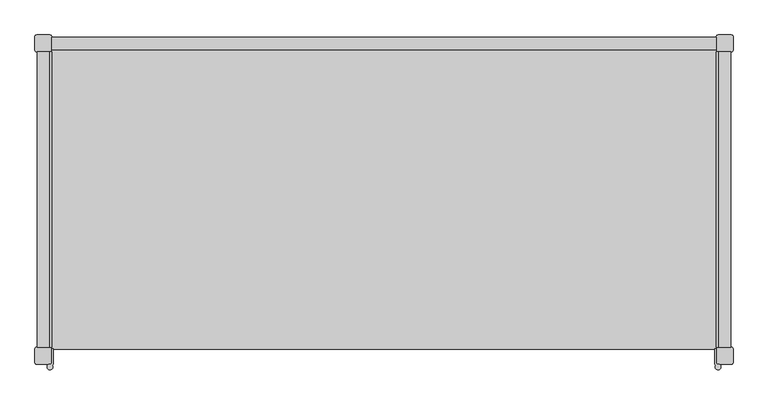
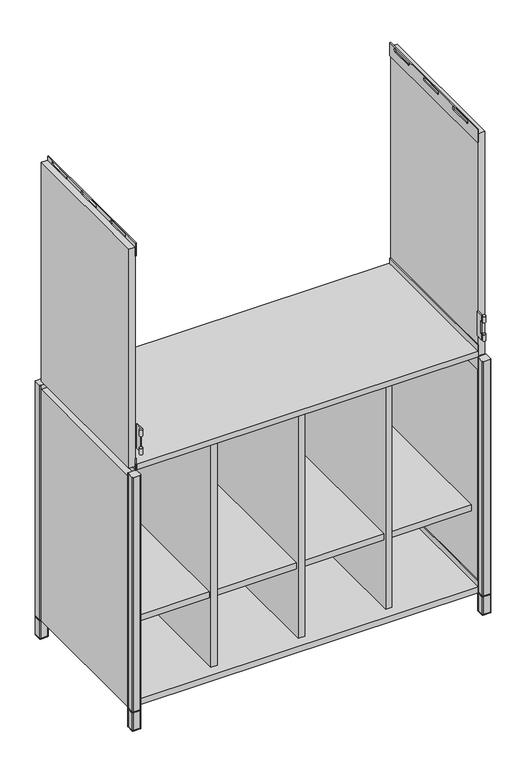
"""IFC4 building model written with IfcOpenShell, lengths in millimetres: furniture geometry, SmithSystem_AM_Storage_Education_Constellate_Stacking_DoubleMidCluster : Upper Cubbies + Lower Cubbies."""

import ifcopenshell
import ifcopenshell.guid

model = None  # the IFC model being written
_history = None  # IfcOwnerHistory: only IFC2X3 demands one
_inside = {}  # id of a spatial element -> (the spatial element, [elements in it])
_under = {}  # id of a project, library or spatial element -> (it, [spatial elements below it])
_declared = {}  # id of a project -> (the project, [libraries it declares])
_typed = {}  # id of a type object -> (the type object, [elements of that type])
_made_of = {}  # id of a material, layer set ... -> (it, [elements and type objects made of it])


def new_model(schema):
    """Start an empty IFC model of exactly this schema.

    Asked for "IFC4X3", IfcOpenShell would pick the latest addendum, in which some entities
    have other attributes; the version numbers below select the first issue.
    IFC2X3 requires an IfcOwnerHistory on every rooted entity: one is made here for all.
    """
    global model, _history
    if schema == "IFC4X3":
        model = ifcopenshell.file(schema_version=(4, 3, 0, 0))
    else:
        model = ifcopenshell.file(schema=schema)
    _inside.clear()
    _under.clear()
    _declared.clear()
    _typed.clear()
    _made_of.clear()
    _history = None
    if model.schema == "IFC2X3":
        org = make("IfcOrganization", Name="unknown")
        user = make(
            "IfcPersonAndOrganization",
            ThePerson=make("IfcPerson", FamilyName="unknown"),
            TheOrganization=org,
        )
        app = make(
            "IfcApplication",
            ApplicationDeveloper=org,
            Version="unknown",
            ApplicationFullName="unknown",
            ApplicationIdentifier="unknown",
        )
        _history = make(
            "IfcOwnerHistory",
            OwningUser=user,
            OwningApplication=app,
            ChangeAction="ADDED",
            CreationDate=0,
        )
    return model


def make(cls, **values):
    """One entity of the class cls with the attributes given. An attribute that is None is left unset."""
    return model.create_entity(
        cls, **{name: value for name, value in values.items() if value is not None}
    )


def rooted(cls, **values):
    """An entity with a GlobalId (a new one), such as an element, a storey or a relation."""
    return make(cls, GlobalId=ifcopenshell.guid.new(), OwnerHistory=_history, **values)


def si_unit(unit_type, name, prefix=None):
    """IfcSIUnit, for example si_unit("LENGTHUNIT", "METRE", prefix="MILLI")."""
    return make("IfcSIUnit", UnitType=unit_type, Prefix=prefix, Name=name)


def assignment(units):
    """IfcUnitAssignment: the units of a project."""
    return None if units is None else make("IfcUnitAssignment", Units=units)


def point(xyz):
    """IfcCartesianPoint."""
    return None if xyz is None else make("IfcCartesianPoint", Coordinates=xyz)


def direction(xyz):
    """IfcDirection."""
    return None if xyz is None else make("IfcDirection", DirectionRatios=xyz)


def frame(location, z_axis=None, x_axis=None):
    """IfcAxis2Placement3D, a coordinate frame: its origin and axes. An axis left out is left unset."""
    return make(
        "IfcAxis2Placement3D",
        Location=point(location),
        Axis=direction(z_axis),
        RefDirection=direction(x_axis),
    )


def frame_2d(location, x_axis=None):
    """IfcAxis2Placement2D, a coordinate frame in the plane: its origin and x axis."""
    return make(
        "IfcAxis2Placement2D", Location=point(location), RefDirection=direction(x_axis)
    )


def origin():
    """The frame at (0, 0, 0) with its axes left unset."""
    return frame((0.0, 0.0, 0.0))


def origin_with_axes():
    """The frame at (0, 0, 0) with the z axis (0, 0, 1) and the x axis (1, 0, 0) written out."""
    return frame((0.0, 0.0, 0.0), z_axis=(0.0, 0.0, 1.0), x_axis=(1.0, 0.0, 0.0))


def place(relative_to, where):
    """IfcLocalPlacement: puts the frame where relative to a parent placement (None: the world)."""
    return make(
        "IfcLocalPlacement", PlacementRelTo=relative_to, RelativePlacement=where
    )


def context(
    kind, dimensions, precision=None, world=None, true_north=None, identifier=None
):
    """IfcGeometricRepresentationContext, for example the 3D "Model" context."""
    return make(
        "IfcGeometricRepresentationContext",
        ContextIdentifier=identifier,
        ContextType=kind,
        CoordinateSpaceDimension=dimensions,
        Precision=precision,
        WorldCoordinateSystem=world,
        TrueNorth=true_north,
    )


def project(units=None, contexts=None):
    """IfcProject with its units and contexts."""
    return rooted(
        "IfcProject",
        Name="project",
        RepresentationContexts=contexts,
        UnitsInContext=assignment(units),
    )


def spatial(cls, under=None, at=None, **own):
    """A site, building, storey or space (cls), placed at a placement, below another one or the project."""
    s = rooted(cls, ObjectPlacement=at, **own)
    if under is not None:
        _under.setdefault(under.id(), (under, []))[1].append(s)
    return s


def polyline(points):
    """IfcPolyline through the points."""
    return make("IfcPolyline", Points=[point(p) for p in points])


def circle_curve(where, radius):
    """IfcCircle in the frame where."""
    return make("IfcCircle", Position=where, Radius=radius)


def trimmed(basis, trim1, trim2, sense, master):
    """IfcTrimmedCurve: the piece of a basis curve between two trims."""
    return make(
        "IfcTrimmedCurve",
        BasisCurve=basis,
        Trim1=trim1,
        Trim2=trim2,
        SenseAgreement=sense,
        MasterRepresentation=master,
    )


def segment(curve, same_sense, transition):
    """IfcCompositeCurveSegment."""
    return make(
        "IfcCompositeCurveSegment",
        Transition=transition,
        SameSense=same_sense,
        ParentCurve=curve,
    )


def composite_curve(segments, self_intersect=None):
    """IfcCompositeCurve: segments joined end to end."""
    return make("IfcCompositeCurve", Segments=segments, SelfIntersect=self_intersect)


def outline(outer, holes=None, kind="AREA"):
    """IfcArbitraryClosedProfileDef: a profile drawn as a closed curve; with holes, ...WithVoids."""
    if holes is None:
        return make("IfcArbitraryClosedProfileDef", ProfileType=kind, OuterCurve=outer)
    return make(
        "IfcArbitraryProfileDefWithVoids",
        ProfileType=kind,
        OuterCurve=outer,
        InnerCurves=holes,
    )


def extrude(swept, where, along, depth):
    """IfcExtrudedAreaSolid: the profile swept, set in the frame where, extruded along a direction by depth."""
    return make(
        "IfcExtrudedAreaSolid",
        SweptArea=swept,
        Position=where,
        ExtrudedDirection=direction(along),
        Depth=depth,
    )


def shape(context_of_items, identifier, shape_type, items):
    """IfcShapeRepresentation: the items that make up one representation, for example the "Body"."""
    return make(
        "IfcShapeRepresentation",
        ContextOfItems=context_of_items,
        RepresentationIdentifier=identifier,
        RepresentationType=shape_type,
        Items=items,
    )


def source(mapping_origin, context_of_items, identifier, shape_type, items):
    """IfcRepresentationMap: a shape defined once, which mapped items show again and again."""
    return make(
        "IfcRepresentationMap",
        MappingOrigin=mapping_origin,
        MappedRepresentation=shape(context_of_items, identifier, shape_type, items),
    )


def transform(
    local_origin,
    x_axis=None,
    y_axis=None,
    z_axis=None,
    scale=None,
    scale2=None,
    scale3=None,
    uniform=True,
):
    """IfcCartesianTransformationOperator3D, or its non-uniform kind. x_axis, y_axis, z_axis: its Axis1, 2, 3."""
    if uniform:
        return make(
            "IfcCartesianTransformationOperator3D",
            Axis1=direction(x_axis),
            Axis2=direction(y_axis),
            LocalOrigin=point(local_origin),
            Scale=scale,
            Axis3=direction(z_axis),
        )
    return make(
        "IfcCartesianTransformationOperator3DnonUniform",
        Axis1=direction(x_axis),
        Axis2=direction(y_axis),
        LocalOrigin=point(local_origin),
        Scale=scale,
        Axis3=direction(z_axis),
        Scale2=scale2,
        Scale3=scale3,
    )


def mapped(mapping_source, mapping_target):
    """IfcMappedItem: shows the shape of a source again, moved by a transform."""
    return make(
        "IfcMappedItem", MappingSource=mapping_source, MappingTarget=mapping_target
    )


def made_of(thing, what):
    """Note that an element or type object is made of a material, layer set ...; save() writes the relation."""
    if what is not None:
        _made_of.setdefault(what.id(), (what, []))[1].append(thing)
    return thing


def element(
    cls,
    number,
    at=None,
    inside=None,
    cuts=None,
    type_object=None,
    material=None,
    context=None,
    identifier="Body",
    shape_type=None,
    held_by="IfcProductDefinitionShape",
    body=None,
    shapes=None,
    **own,
):
    """One element of the class cls, such as IfcWall. Its Tag is "e" and its number.

    at: its placement. inside: the storey or other place that contains it. cuts: it is an
    opening in that element (IfcRelVoidsElement). A single representation is given by context,
    identifier, shape_type and body (its items); several are given by shapes. held_by: the class
    of the entity that holds the representations. save() writes the other relations.
    """
    e = rooted(cls, Tag="e%d" % number, ObjectPlacement=at, **own)
    if body is not None:
        shapes = [shape(context, identifier, shape_type, body)]
    if shapes is not None:
        e.Representation = make(held_by, Representations=shapes)
    if inside is not None:
        _inside.setdefault(inside.id(), (inside, []))[1].append(e)
    if cuts is not None:
        rooted(
            "IfcRelVoidsElement", RelatingBuildingElement=cuts, RelatedOpeningElement=e
        )
    if type_object is not None:
        _typed.setdefault(type_object.id(), (type_object, []))[1].append(e)
    return made_of(e, material)


def aggregate(whole, parts):
    """IfcRelAggregates: a whole, such as a stair, and the parts it consists of."""
    return rooted("IfcRelAggregates", RelatingObject=whole, RelatedObjects=parts)


def save(model, path):
    """Write the relations noted so far, then the file.

    IfcRelAggregates (storeys below a building ...), IfcRelContainedInSpatialStructure (elements
    in a storey), IfcRelDefinesByType, IfcRelAssociatesMaterial and IfcRelDeclares: one each for
    every whole, place, type object, material and project.
    """
    for whole, parts in _under.values():
        aggregate(whole, parts)
    for where, things in _inside.values():
        rooted(
            "IfcRelContainedInSpatialStructure",
            RelatedElements=things,
            RelatingStructure=where,
        )
    for kind, things in _typed.values():
        rooted("IfcRelDefinesByType", RelatedObjects=things, RelatingType=kind)
    for what, things in _made_of.values():
        rooted("IfcRelAssociatesMaterial", RelatedObjects=things, RelatingMaterial=what)
    for by, libraries in _declared.values():
        rooted("IfcRelDeclares", RelatingContext=by, RelatedDefinitions=libraries)
    model.write(path)


def plane_surface(at):
    """IfcPlane: the flat surface through the origin of the frame at, square to its z axis."""
    return make("IfcPlane", Position=at)


def cylinder_surface(at, radius):
    """IfcCylindricalSurface: all points at the distance radius from the z axis of the frame at."""
    return make("IfcCylindricalSurface", Position=at, Radius=radius)


def revolved_surface(curve, axis_point, axis_direction):
    """IfcSurfaceOfRevolution: the curve turned about the line through axis_point along axis_direction."""
    return make(
        "IfcSurfaceOfRevolution",
        SweptCurve=make("IfcArbitraryOpenProfileDef", ProfileType="CURVE", Curve=curve),
        AxisPosition=make("IfcAxis1Placement", Location=point(axis_point), Axis=direction(axis_direction)),
    )


def advanced_brep(points, edges, surfaces, faces):
    """IfcAdvancedBrep: a solid bounded by faces that lie on surfaces and meet in shared edges.

    An edge is (start, end): straight between two places in points (the first is 0);
    or (start, end, curve); or (start, end, curve, False) where it runs against its curve.
    A face is (place in surfaces, loops), or (place, loops, False) where it looks against
    its surface's normal. A loop lists edges by number (the first is 1), with a minus sign
    where the edge is run from its end to its start. The first loop is the outer one.
    """
    corners = [point(p) for p in points]
    vertices = [make("IfcVertexPoint", VertexGeometry=c) for c in corners]
    made = []
    for start, end, *more in edges:
        made.append(
            make(
                "IfcEdgeCurve",
                EdgeStart=vertices[start],
                EdgeEnd=vertices[end],
                EdgeGeometry=more[0] if more else make("IfcPolyline", Points=[corners[start], corners[end]]),
                SameSense=more[1] if len(more) > 1 else True,
            )
        )
    hull = []
    for where, loops, *sense in faces:
        bounds = []
        for j, loop in enumerate(loops):
            ring = [make("IfcOrientedEdge", EdgeElement=made[abs(k) - 1], Orientation=k > 0) for k in loop]
            bounds.append(
                make(
                    "IfcFaceOuterBound" if j == 0 else "IfcFaceBound",
                    Bound=make("IfcEdgeLoop", EdgeList=ring),
                    Orientation=True,
                )
            )
        hull.append(make("IfcAdvancedFace", Bounds=bounds, FaceSurface=surfaces[where], SameSense=sense[0] if sense else True))
    return make("IfcAdvancedBrep", Outer=make("IfcClosedShell", CfsFaces=hull))


def furniture_8203fddc(model_context):
    return source(origin(), model_context, "Body", "SolidModel", [
        extrude(outline(polyline([(-223.52, 753.11), (-223.52, 793.75), (226.06, 793.75), (226.06, 753.11), (-223.52, 753.11)]), holes=[composite_curve([segment(trimmed(circle_curve(frame_2d((-17.78, 786.13)), 5.08), [point((-17.78, 791.21))], [point((-17.78, 781.05))], True, "CARTESIAN"), True, "CONTINUOUS"), segment(polyline([(-17.78, 781.05), (48.26, 781.05)]), True, "CONTINUOUS"), segment(trimmed(circle_curve(frame_2d((48.26, 786.13)), 5.08), [point((48.26, 781.05))], [point((48.26, 791.21))], True, "CARTESIAN"), True, "CONTINUOUS"), segment(polyline([(48.26, 791.21), (-17.78, 791.21)]), True, "CONTINUOUS")], self_intersect=False), composite_curve([segment(trimmed(circle_curve(frame_2d((132.08, 786.13)), 5.08), [point((132.08, 791.21))], [point((132.08, 781.05))], True, "CARTESIAN"), True, "CONTINUOUS"), segment(polyline([(132.08, 781.05), (198.12, 781.05)]), True, "CONTINUOUS"), segment(trimmed(circle_curve(frame_2d((198.12, 786.13)), 5.08), [point((198.12, 781.05))], [point((198.12, 791.21))], True, "CARTESIAN"), True, "CONTINUOUS"), segment(polyline([(198.12, 791.21), (132.08, 791.21)]), True, "CONTINUOUS")], self_intersect=False), composite_curve([segment(trimmed(circle_curve(frame_2d((-167.64, 786.13)), 5.08), [point((-167.64, 791.21))], [point((-167.64, 781.05))], True, "CARTESIAN"), True, "CONTINUOUS"), segment(polyline([(-167.64, 781.05), (-101.6, 781.05)]), True, "CONTINUOUS"), segment(trimmed(circle_curve(frame_2d((-101.6, 786.13)), 5.08), [point((-101.6, 781.05))], [point((-101.6, 791.21))], True, "CARTESIAN"), True, "CONTINUOUS"), segment(polyline([(-101.6, 791.21), (-167.64, 791.21)]), True, "CONTINUOUS")], self_intersect=False)]), frame((-508.0, 0.0, 0.0), z_axis=(1.0, 0.0, 0.0), x_axis=(0.0, 1.0, 0.0)), (0.0, 0.0, 1.0), 2.54),
        extrude(outline(polyline([(-223.52, 1464.31), (-223.52, 1504.95), (226.06, 1504.95), (226.06, 1464.31), (-223.52, 1464.31)]), holes=[composite_curve([segment(trimmed(circle_curve(frame_2d((-17.78, 1497.33)), 5.08), [point((-17.78, 1502.41))], [point((-17.78, 1492.25))], True, "CARTESIAN"), True, "CONTINUOUS"), segment(polyline([(-17.78, 1492.25), (48.26, 1492.25)]), True, "CONTINUOUS"), segment(trimmed(circle_curve(frame_2d((48.26, 1497.33)), 5.08), [point((48.26, 1492.25))], [point((48.26, 1502.41))], True, "CARTESIAN"), True, "CONTINUOUS"), segment(polyline([(48.26, 1502.41), (-17.78, 1502.41)]), True, "CONTINUOUS")], self_intersect=False), composite_curve([segment(trimmed(circle_curve(frame_2d((132.08, 1497.33)), 5.08), [point((132.08, 1502.41))], [point((132.08, 1492.25))], True, "CARTESIAN"), True, "CONTINUOUS"), segment(polyline([(132.08, 1492.25), (198.12, 1492.25)]), True, "CONTINUOUS"), segment(trimmed(circle_curve(frame_2d((198.12, 1497.33)), 5.08), [point((198.12, 1492.25))], [point((198.12, 1502.41))], True, "CARTESIAN"), True, "CONTINUOUS"), segment(polyline([(198.12, 1502.41), (132.08, 1502.41)]), True, "CONTINUOUS")], self_intersect=False), composite_curve([segment(trimmed(circle_curve(frame_2d((-167.64, 1497.33)), 5.08), [point((-167.64, 1502.41))], [point((-167.64, 1492.25))], True, "CARTESIAN"), True, "CONTINUOUS"), segment(polyline([(-167.64, 1492.25), (-101.6, 1492.25)]), True, "CONTINUOUS"), segment(trimmed(circle_curve(frame_2d((-101.6, 1497.33)), 5.08), [point((-101.6, 1492.25))], [point((-101.6, 1502.41))], True, "CARTESIAN"), True, "CONTINUOUS"), segment(polyline([(-101.6, 1502.41), (-167.64, 1502.41)]), True, "CONTINUOUS")], self_intersect=False)]), frame((-508.0, 0.0, 0.0), z_axis=(1.0, 0.0, 0.0), x_axis=(0.0, 1.0, 0.0)), (0.0, 0.0, 1.0), 2.54),
        extrude(outline(polyline([(-223.52, 793.75), (226.06, 793.75), (226.06, 753.11), (-223.52, 753.11), (-223.52, 793.75)]), holes=[composite_curve([segment(trimmed(circle_curve(frame_2d((132.08, 786.13)), 5.08), [point((132.08, 791.21))], [point((132.08, 781.05))], True, "CARTESIAN"), True, "CONTINUOUS"), segment(polyline([(132.08, 781.05), (198.12, 781.05)]), True, "CONTINUOUS"), segment(trimmed(circle_curve(frame_2d((198.12, 786.13)), 5.08), [point((198.12, 781.05))], [point((198.12, 791.21))], True, "CARTESIAN"), True, "CONTINUOUS"), segment(polyline([(198.12, 791.21), (132.08, 791.21)]), True, "CONTINUOUS")], self_intersect=False), composite_curve([segment(trimmed(circle_curve(frame_2d((-17.78, 786.13)), 5.08), [point((-17.78, 791.21))], [point((-17.78, 781.05))], True, "CARTESIAN"), True, "CONTINUOUS"), segment(polyline([(-17.78, 781.05), (48.26, 781.05)]), True, "CONTINUOUS"), segment(trimmed(circle_curve(frame_2d((48.26, 786.13)), 5.08), [point((48.26, 781.05))], [point((48.26, 791.21))], True, "CARTESIAN"), True, "CONTINUOUS"), segment(polyline([(48.26, 791.21), (-17.78, 791.21)]), True, "CONTINUOUS")], self_intersect=False), composite_curve([segment(trimmed(circle_curve(frame_2d((-167.64, 786.13)), 5.08), [point((-167.64, 791.21))], [point((-167.64, 781.05))], True, "CARTESIAN"), True, "CONTINUOUS"), segment(polyline([(-167.64, 781.05), (-101.6, 781.05)]), True, "CONTINUOUS"), segment(trimmed(circle_curve(frame_2d((-101.6, 786.13)), 5.08), [point((-101.6, 781.05))], [point((-101.6, 791.21))], True, "CARTESIAN"), True, "CONTINUOUS"), segment(polyline([(-101.6, 791.21), (-167.64, 791.21)]), True, "CONTINUOUS")], self_intersect=False)]), frame((505.46, 0.0, 0.0), z_axis=(1.0, 0.0, 0.0), x_axis=(0.0, 1.0, 0.0)), (0.0, 0.0, 1.0), 2.54),
        extrude(outline(polyline([(-223.52, 1504.95), (226.06, 1504.95), (226.06, 1464.31), (-223.52, 1464.31), (-223.52, 1504.95)]), holes=[composite_curve([segment(trimmed(circle_curve(frame_2d((132.08, 1497.33)), 5.08), [point((132.08, 1502.41))], [point((132.08, 1492.25))], True, "CARTESIAN"), True, "CONTINUOUS"), segment(polyline([(132.08, 1492.25), (198.12, 1492.25)]), True, "CONTINUOUS"), segment(trimmed(circle_curve(frame_2d((198.12, 1497.33)), 5.08), [point((198.12, 1492.25))], [point((198.12, 1502.41))], True, "CARTESIAN"), True, "CONTINUOUS"), segment(polyline([(198.12, 1502.41), (132.08, 1502.41)]), True, "CONTINUOUS")], self_intersect=False), composite_curve([segment(trimmed(circle_curve(frame_2d((-17.78, 1497.33)), 5.08), [point((-17.78, 1502.41))], [point((-17.78, 1492.25))], True, "CARTESIAN"), True, "CONTINUOUS"), segment(polyline([(-17.78, 1492.25), (48.26, 1492.25)]), True, "CONTINUOUS"), segment(trimmed(circle_curve(frame_2d((48.26, 1497.33)), 5.08), [point((48.26, 1492.25))], [point((48.26, 1502.41))], True, "CARTESIAN"), True, "CONTINUOUS"), segment(polyline([(48.26, 1502.41), (-17.78, 1502.41)]), True, "CONTINUOUS")], self_intersect=False), composite_curve([segment(trimmed(circle_curve(frame_2d((-167.64, 1497.33)), 5.08), [point((-167.64, 1502.41))], [point((-167.64, 1492.25))], True, "CARTESIAN"), True, "CONTINUOUS"), segment(polyline([(-167.64, 1492.25), (-101.6, 1492.25)]), True, "CONTINUOUS"), segment(trimmed(circle_curve(frame_2d((-101.6, 1497.33)), 5.08), [point((-101.6, 1492.25))], [point((-101.6, 1502.41))], True, "CARTESIAN"), True, "CONTINUOUS"), segment(polyline([(-101.6, 1502.41), (-167.64, 1502.41)]), True, "CONTINUOUS")], self_intersect=False)]), frame((505.46, 0.0, 0.0), z_axis=(1.0, 0.0, 0.0), x_axis=(0.0, 1.0, 0.0)), (0.0, 0.0, 1.0), 2.54),
        extrude(outline(polyline([(-9.525, -187.96), (-249.2375, -187.96), (-249.2375, 226.06), (-9.525, 226.06), (-9.525, -187.96)])), frame((0.0, 0.0, 289.1409), z_axis=(0.0, 0.0, 1.0), x_axis=(1.0, 0.0, 0.0)), (0.0, 0.0, 1.0), 19.05),
        extrude(outline(polyline([(249.2375, -187.96), (9.525, -187.96), (9.525, 226.06), (249.2375, 226.06), (249.2375, -187.96)])), frame((0.0, 0.0, 289.1409), z_axis=(0.0, 0.0, 1.0), x_axis=(1.0, 0.0, 0.0)), (0.0, 0.0, 1.0), 19.05),
        extrude(outline(polyline([(508.0, -187.96), (268.2875, -187.96), (268.2875, 226.06), (508.0, 226.06), (508.0, -187.96)])), frame((0.0, 0.0, 289.1409), z_axis=(0.0, 0.0, 1.0), x_axis=(1.0, 0.0, 0.0)), (0.0, 0.0, 1.0), 19.05),
        extrude(outline(polyline([(-268.2875, -187.96), (-508.0, -187.96), (-508.0, 226.06), (-268.2875, 226.06), (-268.2875, -187.96)])), frame((0.0, 0.0, 289.1409), z_axis=(0.0, 0.0, 1.0), x_axis=(1.0, 0.0, 0.0)), (0.0, 0.0, 1.0), 19.05),
        extrude(outline(polyline([(-268.2875, -195.58), (-268.2875, 226.06), (-249.2375, 226.06), (-249.2375, -195.58), (-268.2875, -195.58)])), frame((0.0, 0.0, 76.2), z_axis=(0.0, 0.0, 1.0), x_axis=(1.0, 0.0, 0.0)), (0.0, 0.0, 1.0), 717.55),
        extrude(outline(polyline([(-9.525, -195.58), (-9.525, 226.06), (9.525, 226.06), (9.525, -195.58), (-9.525, -195.58)])), frame((0.0, 0.0, 76.2), z_axis=(0.0, 0.0, 1.0), x_axis=(1.0, 0.0, 0.0)), (0.0, 0.0, 1.0), 717.55),
        extrude(outline(polyline([(249.2375, -195.58), (249.2375, 226.06), (268.2875, 226.06), (268.2875, -195.58), (249.2375, -195.58)])), frame((0.0, 0.0, 76.2), z_axis=(0.0, 0.0, 1.0), x_axis=(1.0, 0.0, 0.0)), (0.0, 0.0, 1.0), 717.55),
        extrude(outline(polyline([(505.46, 228.6), (-505.46, 228.6), (-505.46, 247.65), (505.46, 247.65), (505.46, 228.6)])), frame((0.0, 0.0, 57.15), z_axis=(0.0, 0.0, 1.0), x_axis=(1.0, 0.0, 0.0)), (0.0, 0.0, 1.0), 736.6),
        extrude(outline(polyline([(508.0, -223.52), (505.46, -223.52), (505.46, 226.06), (508.0, 226.06), (508.0, -223.52)])), frame((0.0, 0.0, 57.15), z_axis=(0.0, 0.0, 1.0), x_axis=(1.0, 0.0, 0.0)), (0.0, 0.0, 1.0), 36.83),
        extrude(outline(polyline([(-505.46, -223.52), (-508.0, -223.52), (-508.0, 226.06), (-505.46, 226.06), (-505.46, -223.52)])), frame((0.0, 0.0, 57.15), z_axis=(0.0, 0.0, 1.0), x_axis=(1.0, 0.0, 0.0)), (0.0, 0.0, 1.0), 36.83),
        extrude(outline(polyline([(508.0, -223.52), (505.46, -223.52), (505.46, 226.06), (508.0, 226.06), (508.0, -223.52)])), frame((0.0, 0.0, 793.75), z_axis=(0.0, 0.0, 1.0), x_axis=(1.0, 0.0, 0.0)), (0.0, 0.0, 1.0), 36.83),
        extrude(outline(polyline([(-505.46, -223.52), (-508.0, -223.52), (-508.0, 226.06), (-505.46, 226.06), (-505.46, -223.52)])), frame((0.0, 0.0, 793.75), z_axis=(0.0, 0.0, 1.0), x_axis=(1.0, 0.0, 0.0)), (0.0, 0.0, 1.0), 36.83),
        extrude(outline(polyline([(-508.0, -223.52), (-527.05, -223.52), (-527.05, 226.06), (-508.0, 226.06), (-508.0, -223.52)])), frame((0.0, 0.0, 57.15), z_axis=(0.0, 0.0, 1.0), x_axis=(1.0, 0.0, 0.0)), (0.0, 0.0, 1.0), 723.9),
        extrude(outline(polyline([(527.05, -223.52), (508.0, -223.52), (508.0, 226.06), (527.05, 226.06), (527.05, -223.52)])), frame((0.0, 0.0, 57.15), z_axis=(0.0, 0.0, 1.0), x_axis=(1.0, 0.0, 0.0)), (0.0, 0.0, 1.0), 723.9),
        extrude(outline(polyline([(-508.0, -223.52), (-527.05, -223.52), (-527.05, 226.06), (-508.0, 226.06), (-508.0, -223.52)])), frame((0.0, 0.0, 806.45), z_axis=(0.0, 0.0, 1.0), x_axis=(1.0, 0.0, 0.0)), (0.0, 0.0, 1.0), 685.8),
        extrude(outline(polyline([(527.05, -223.52), (508.0, -223.52), (508.0, 226.06), (527.05, 226.06), (527.05, -223.52)])), frame((0.0, 0.0, 796.29), z_axis=(0.0, 0.0, 1.0), x_axis=(1.0, 0.0, 0.0)), (0.0, 0.0, 1.0), 695.96),
        extrude(outline(polyline([(505.46, 228.6), (505.46, -226.06), (-505.46, -226.06), (-505.46, 228.6), (505.46, 228.6)])), frame((0.0, 0.0, 57.15), z_axis=(0.0, 0.0, 1.0), x_axis=(1.0, 0.0, 0.0)), (0.0, 0.0, 1.0), 19.05),
        extrude(outline(polyline([(505.46, 228.6), (505.46, -226.06), (-505.46, -226.06), (-505.46, 228.6), (505.46, 228.6)])), frame((0.0, 0.0, 796.29), z_axis=(0.0, 0.0, 1.0), x_axis=(1.0, 0.0, 0.0)), (0.0, 0.0, 1.0), 16.51),
        extrude(outline(composite_curve([segment(polyline([(-528.32, -223.52), (-508.0, -223.52)]), True, "CONTINUOUS"), segment(trimmed(circle_curve(frame_2d((-508.0, -226.06)), 2.54), [point((-508.0, -223.52))], [point((-505.46, -226.06))], False, "CARTESIAN"), True, "CONTINUOUS"), segment(polyline([(-505.46, -226.06), (-505.46, -246.38)]), True, "CONTINUOUS"), segment(trimmed(circle_curve(frame_2d((-508.0, -246.38)), 2.54), [point((-505.46, -246.38))], [point((-508.0, -248.92))], False, "CARTESIAN"), True, "CONTINUOUS"), segment(polyline([(-508.0, -248.92), (-528.32, -248.92)]), True, "CONTINUOUS"), segment(trimmed(circle_curve(frame_2d((-528.32, -246.38)), 2.54), [point((-528.32, -248.92))], [point((-530.86, -246.38))], False, "CARTESIAN"), True, "CONTINUOUS"), segment(polyline([(-530.86, -246.38), (-530.86, -226.06)]), True, "CONTINUOUS"), segment(trimmed(circle_curve(frame_2d((-528.32, -226.06)), 2.54), [point((-530.86, -226.06))], [point((-528.32, -223.52))], False, "CARTESIAN"), True, "CONTINUOUS")], self_intersect=False)), frame((0.0, 0.0, 57.15), z_axis=(0.0, 0.0, 1.0), x_axis=(1.0, 0.0, 0.0)), (0.0, 0.0, 1.0), 2.54),
        extrude(outline(composite_curve([segment(polyline([(530.86, 248.92), (530.86, 228.6)]), True, "CONTINUOUS"), segment(trimmed(circle_curve(frame_2d((528.32, 228.6)), 2.54), [point((530.86, 228.6))], [point((528.32, 226.06))], False, "CARTESIAN"), True, "CONTINUOUS"), segment(polyline([(528.32, 226.06), (508.0, 226.06)]), True, "CONTINUOUS"), segment(trimmed(circle_curve(frame_2d((508.0, 228.6)), 2.54), [point((508.0, 226.06))], [point((505.46, 228.6))], False, "CARTESIAN"), True, "CONTINUOUS"), segment(polyline([(505.46, 228.6), (505.46, 248.92)]), True, "CONTINUOUS"), segment(trimmed(circle_curve(frame_2d((508.0, 248.92)), 2.54), [point((505.46, 248.92))], [point((508.0, 251.46))], False, "CARTESIAN"), True, "CONTINUOUS"), segment(polyline([(508.0, 251.46), (528.32, 251.46)]), True, "CONTINUOUS"), segment(trimmed(circle_curve(frame_2d((528.32, 248.92)), 2.54), [point((528.32, 251.46))], [point((530.86, 248.92))], False, "CARTESIAN"), True, "CONTINUOUS")], self_intersect=False)), frame((0.0, 0.0, 57.15), z_axis=(0.0, 0.0, 1.0), x_axis=(1.0, 0.0, 0.0)), (0.0, 0.0, 1.0), 2.54),
        extrude(outline(composite_curve([segment(trimmed(circle_curve(frame_2d((528.32, -226.06)), 2.54), [point((528.32, -223.52))], [point((530.86, -226.06))], False, "CARTESIAN"), True, "CONTINUOUS"), segment(polyline([(530.86, -226.06), (530.86, -246.38)]), True, "CONTINUOUS"), segment(trimmed(circle_curve(frame_2d((528.32, -246.38)), 2.54), [point((530.86, -246.38))], [point((528.32, -248.92))], False, "CARTESIAN"), True, "CONTINUOUS"), segment(polyline([(528.32, -248.92), (508.0, -248.92)]), True, "CONTINUOUS"), segment(trimmed(circle_curve(frame_2d((508.0, -246.38)), 2.54), [point((508.0, -248.92))], [point((505.46, -246.38))], False, "CARTESIAN"), True, "CONTINUOUS"), segment(polyline([(505.46, -246.38), (505.46, -226.06)]), True, "CONTINUOUS"), segment(trimmed(circle_curve(frame_2d((508.0, -226.06)), 2.54), [point((505.46, -226.06))], [point((508.0, -223.52))], False, "CARTESIAN"), True, "CONTINUOUS"), segment(polyline([(508.0, -223.52), (528.32, -223.52)]), True, "CONTINUOUS")], self_intersect=False)), frame((0.0, 0.0, 57.15), z_axis=(0.0, 0.0, 1.0), x_axis=(1.0, 0.0, 0.0)), (0.0, 0.0, 1.0), 2.54),
        extrude(outline(composite_curve([segment(trimmed(circle_curve(frame_2d((-528.32, 248.92)), 2.54), [point((-530.86, 248.92))], [point((-528.32, 251.46))], False, "CARTESIAN"), True, "CONTINUOUS"), segment(polyline([(-528.32, 251.46), (-508.0, 251.46)]), True, "CONTINUOUS"), segment(trimmed(circle_curve(frame_2d((-508.0, 248.92)), 2.54), [point((-508.0, 251.46))], [point((-505.46, 248.92))], False, "CARTESIAN"), True, "CONTINUOUS"), segment(polyline([(-505.46, 248.92), (-505.46, 228.6)]), True, "CONTINUOUS"), segment(trimmed(circle_curve(frame_2d((-508.0, 228.6)), 2.54), [point((-505.46, 228.6))], [point((-508.0, 226.06))], False, "CARTESIAN"), True, "CONTINUOUS"), segment(polyline([(-508.0, 226.06), (-528.32, 226.06)]), True, "CONTINUOUS"), segment(trimmed(circle_curve(frame_2d((-528.32, 228.6)), 2.54), [point((-528.32, 226.06))], [point((-530.86, 228.6))], False, "CARTESIAN"), True, "CONTINUOUS"), segment(polyline([(-530.86, 228.6), (-530.86, 248.92)]), True, "CONTINUOUS")], self_intersect=False)), frame((0.0, 0.0, 57.15), z_axis=(0.0, 0.0, 1.0), x_axis=(1.0, 0.0, 0.0)), (0.0, 0.0, 1.0), 2.54),
        extrude(outline(composite_curve([segment(polyline([(-528.32, -223.52), (-508.0, -223.52)]), True, "CONTINUOUS"), segment(trimmed(circle_curve(frame_2d((-508.0, -226.06)), 2.54), [point((-508.0, -223.52))], [point((-505.46, -226.06))], False, "CARTESIAN"), True, "CONTINUOUS"), segment(polyline([(-505.46, -226.06), (-505.46, -246.38)]), True, "CONTINUOUS"), segment(trimmed(circle_curve(frame_2d((-508.0, -246.38)), 2.54), [point((-505.46, -246.38))], [point((-508.0, -248.92))], False, "CARTESIAN"), True, "CONTINUOUS"), segment(polyline([(-508.0, -248.92), (-528.32, -248.92)]), True, "CONTINUOUS"), segment(trimmed(circle_curve(frame_2d((-528.32, -246.38)), 2.54), [point((-528.32, -248.92))], [point((-530.86, -246.38))], False, "CARTESIAN"), True, "CONTINUOUS"), segment(polyline([(-530.86, -246.38), (-530.86, -226.06)]), True, "CONTINUOUS"), segment(trimmed(circle_curve(frame_2d((-528.32, -226.06)), 2.54), [point((-530.86, -226.06))], [point((-528.32, -223.52))], False, "CARTESIAN"), True, "CONTINUOUS")], self_intersect=False)), frame((0.0, 0.0, 59.69), z_axis=(0.0, 0.0, 1.0), x_axis=(1.0, 0.0, 0.0)), (0.0, 0.0, 1.0), 734.06),
        extrude(outline(composite_curve([segment(polyline([(530.86, 248.92), (530.86, 228.6)]), True, "CONTINUOUS"), segment(trimmed(circle_curve(frame_2d((528.32, 228.6)), 2.54), [point((530.86, 228.6))], [point((528.32, 226.06))], False, "CARTESIAN"), True, "CONTINUOUS"), segment(polyline([(528.32, 226.06), (508.0, 226.06)]), True, "CONTINUOUS"), segment(trimmed(circle_curve(frame_2d((508.0, 228.6)), 2.54), [point((508.0, 226.06))], [point((505.46, 228.6))], False, "CARTESIAN"), True, "CONTINUOUS"), segment(polyline([(505.46, 228.6), (505.46, 248.92)]), True, "CONTINUOUS"), segment(trimmed(circle_curve(frame_2d((508.0, 248.92)), 2.54), [point((505.46, 248.92))], [point((508.0, 251.46))], False, "CARTESIAN"), True, "CONTINUOUS"), segment(polyline([(508.0, 251.46), (528.32, 251.46)]), True, "CONTINUOUS"), segment(trimmed(circle_curve(frame_2d((528.32, 248.92)), 2.54), [point((528.32, 251.46))], [point((530.86, 248.92))], False, "CARTESIAN"), True, "CONTINUOUS")], self_intersect=False)), frame((0.0, 0.0, 59.69), z_axis=(0.0, 0.0, 1.0), x_axis=(1.0, 0.0, 0.0)), (0.0, 0.0, 1.0), 734.06),
        extrude(outline(composite_curve([segment(trimmed(circle_curve(frame_2d((528.32, -226.06)), 2.54), [point((528.32, -223.52))], [point((530.86, -226.06))], False, "CARTESIAN"), True, "CONTINUOUS"), segment(polyline([(530.86, -226.06), (530.86, -246.38)]), True, "CONTINUOUS"), segment(trimmed(circle_curve(frame_2d((528.32, -246.38)), 2.54), [point((530.86, -246.38))], [point((528.32, -248.92))], False, "CARTESIAN"), True, "CONTINUOUS"), segment(polyline([(528.32, -248.92), (508.0, -248.92)]), True, "CONTINUOUS"), segment(trimmed(circle_curve(frame_2d((508.0, -246.38)), 2.54), [point((508.0, -248.92))], [point((505.46, -246.38))], False, "CARTESIAN"), True, "CONTINUOUS"), segment(polyline([(505.46, -246.38), (505.46, -226.06)]), True, "CONTINUOUS"), segment(trimmed(circle_curve(frame_2d((508.0, -226.06)), 2.54), [point((505.46, -226.06))], [point((508.0, -223.52))], False, "CARTESIAN"), True, "CONTINUOUS"), segment(polyline([(508.0, -223.52), (528.32, -223.52)]), True, "CONTINUOUS")], self_intersect=False)), frame((0.0, 0.0, 59.69), z_axis=(0.0, 0.0, 1.0), x_axis=(1.0, 0.0, 0.0)), (0.0, 0.0, 1.0), 734.06),
        extrude(outline(composite_curve([segment(trimmed(circle_curve(frame_2d((-528.32, 248.92)), 2.54), [point((-530.86, 248.92))], [point((-528.32, 251.46))], False, "CARTESIAN"), True, "CONTINUOUS"), segment(polyline([(-528.32, 251.46), (-508.0, 251.46)]), True, "CONTINUOUS"), segment(trimmed(circle_curve(frame_2d((-508.0, 248.92)), 2.54), [point((-508.0, 251.46))], [point((-505.46, 248.92))], False, "CARTESIAN"), True, "CONTINUOUS"), segment(polyline([(-505.46, 248.92), (-505.46, 228.6)]), True, "CONTINUOUS"), segment(trimmed(circle_curve(frame_2d((-508.0, 228.6)), 2.54), [point((-505.46, 228.6))], [point((-508.0, 226.06))], False, "CARTESIAN"), True, "CONTINUOUS"), segment(polyline([(-508.0, 226.06), (-528.32, 226.06)]), True, "CONTINUOUS"), segment(trimmed(circle_curve(frame_2d((-528.32, 228.6)), 2.54), [point((-528.32, 226.06))], [point((-530.86, 228.6))], False, "CARTESIAN"), True, "CONTINUOUS"), segment(polyline([(-530.86, 228.6), (-530.86, 248.92)]), True, "CONTINUOUS")], self_intersect=False)), frame((0.0, 0.0, 59.69), z_axis=(0.0, 0.0, 1.0), x_axis=(1.0, 0.0, 0.0)), (0.0, 0.0, 1.0), 734.06),
        extrude(outline(composite_curve([segment(polyline([(-528.32, -223.52), (-508.0, -223.52)]), True, "CONTINUOUS"), segment(trimmed(circle_curve(frame_2d((-508.0, -226.06)), 2.54), [point((-508.0, -223.52))], [point((-505.46, -226.06))], False, "CARTESIAN"), True, "CONTINUOUS"), segment(polyline([(-505.46, -226.06), (-505.46, -246.38)]), True, "CONTINUOUS"), segment(trimmed(circle_curve(frame_2d((-508.0, -246.38)), 2.54), [point((-505.46, -246.38))], [point((-508.0, -248.92))], False, "CARTESIAN"), True, "CONTINUOUS"), segment(polyline([(-508.0, -248.92), (-528.32, -248.92)]), True, "CONTINUOUS"), segment(trimmed(circle_curve(frame_2d((-528.32, -246.38)), 2.54), [point((-528.32, -248.92))], [point((-530.86, -246.38))], False, "CARTESIAN"), True, "CONTINUOUS"), segment(polyline([(-530.86, -246.38), (-530.86, -226.06)]), True, "CONTINUOUS"), segment(trimmed(circle_curve(frame_2d((-528.32, -226.06)), 2.54), [point((-530.86, -226.06))], [point((-528.32, -223.52))], False, "CARTESIAN"), True, "CONTINUOUS")], self_intersect=False)), frame((0.0, 0.0, 2.54), z_axis=(0.0, 0.0, 1.0), x_axis=(1.0, 0.0, 0.0)), (0.0, 0.0, 1.0), 54.61),
        extrude(outline(composite_curve([segment(polyline([(530.86, 248.92), (530.86, 228.6)]), True, "CONTINUOUS"), segment(trimmed(circle_curve(frame_2d((528.32, 228.6)), 2.54), [point((530.86, 228.6))], [point((528.32, 226.06))], False, "CARTESIAN"), True, "CONTINUOUS"), segment(polyline([(528.32, 226.06), (508.0, 226.06)]), True, "CONTINUOUS"), segment(trimmed(circle_curve(frame_2d((508.0, 228.6)), 2.54), [point((508.0, 226.06))], [point((505.46, 228.6))], False, "CARTESIAN"), True, "CONTINUOUS"), segment(polyline([(505.46, 228.6), (505.46, 248.92)]), True, "CONTINUOUS"), segment(trimmed(circle_curve(frame_2d((508.0, 248.92)), 2.54), [point((505.46, 248.92))], [point((508.0, 251.46))], False, "CARTESIAN"), True, "CONTINUOUS"), segment(polyline([(508.0, 251.46), (528.32, 251.46)]), True, "CONTINUOUS"), segment(trimmed(circle_curve(frame_2d((528.32, 248.92)), 2.54), [point((528.32, 251.46))], [point((530.86, 248.92))], False, "CARTESIAN"), True, "CONTINUOUS")], self_intersect=False)), frame((0.0, 0.0, 2.54), z_axis=(0.0, 0.0, 1.0), x_axis=(1.0, 0.0, 0.0)), (0.0, 0.0, 1.0), 54.61),
        extrude(outline(composite_curve([segment(trimmed(circle_curve(frame_2d((528.32, -226.06)), 2.54), [point((528.32, -223.52))], [point((530.86, -226.06))], False, "CARTESIAN"), True, "CONTINUOUS"), segment(polyline([(530.86, -226.06), (530.86, -246.38)]), True, "CONTINUOUS"), segment(trimmed(circle_curve(frame_2d((528.32, -246.38)), 2.54), [point((530.86, -246.38))], [point((528.32, -248.92))], False, "CARTESIAN"), True, "CONTINUOUS"), segment(polyline([(528.32, -248.92), (508.0, -248.92)]), True, "CONTINUOUS"), segment(trimmed(circle_curve(frame_2d((508.0, -246.38)), 2.54), [point((508.0, -248.92))], [point((505.46, -246.38))], False, "CARTESIAN"), True, "CONTINUOUS"), segment(polyline([(505.46, -246.38), (505.46, -226.06)]), True, "CONTINUOUS"), segment(trimmed(circle_curve(frame_2d((508.0, -226.06)), 2.54), [point((505.46, -226.06))], [point((508.0, -223.52))], False, "CARTESIAN"), True, "CONTINUOUS"), segment(polyline([(508.0, -223.52), (528.32, -223.52)]), True, "CONTINUOUS")], self_intersect=False)), frame((0.0, 0.0, 2.54), z_axis=(0.0, 0.0, 1.0), x_axis=(1.0, 0.0, 0.0)), (0.0, 0.0, 1.0), 54.61),
        extrude(outline(composite_curve([segment(trimmed(circle_curve(frame_2d((-528.32, 248.92)), 2.54), [point((-530.86, 248.92))], [point((-528.32, 251.46))], False, "CARTESIAN"), True, "CONTINUOUS"), segment(polyline([(-528.32, 251.46), (-508.0, 251.46)]), True, "CONTINUOUS"), segment(trimmed(circle_curve(frame_2d((-508.0, 248.92)), 2.54), [point((-508.0, 251.46))], [point((-505.46, 248.92))], False, "CARTESIAN"), True, "CONTINUOUS"), segment(polyline([(-505.46, 248.92), (-505.46, 228.6)]), True, "CONTINUOUS"), segment(trimmed(circle_curve(frame_2d((-508.0, 228.6)), 2.54), [point((-505.46, 228.6))], [point((-508.0, 226.06))], False, "CARTESIAN"), True, "CONTINUOUS"), segment(polyline([(-508.0, 226.06), (-528.32, 226.06)]), True, "CONTINUOUS"), segment(trimmed(circle_curve(frame_2d((-528.32, 228.6)), 2.54), [point((-528.32, 226.06))], [point((-530.86, 228.6))], False, "CARTESIAN"), True, "CONTINUOUS"), segment(polyline([(-530.86, 228.6), (-530.86, 248.92)]), True, "CONTINUOUS")], self_intersect=False)), frame((0.0, 0.0, 2.54), z_axis=(0.0, 0.0, 1.0), x_axis=(1.0, 0.0, 0.0)), (0.0, 0.0, 1.0), 54.61),
        extrude(outline(composite_curve([segment(trimmed(circle_curve(frame_2d((-508.0, -226.06)), 2.54), [point((-508.0, -223.52))], [point((-505.46, -226.06))], False, "CARTESIAN"), True, "CONTINUOUS"), segment(polyline([(-505.46, -226.06), (-505.46, -246.38)]), True, "CONTINUOUS"), segment(trimmed(circle_curve(frame_2d((-508.0, -246.38)), 2.54), [point((-505.46, -246.38))], [point((-508.0, -248.92))], False, "CARTESIAN"), True, "CONTINUOUS"), segment(polyline([(-508.0, -248.92), (-528.32, -248.92)]), True, "CONTINUOUS"), segment(trimmed(circle_curve(frame_2d((-528.32, -246.38)), 2.54), [point((-528.32, -248.92))], [point((-530.86, -246.38))], False, "CARTESIAN"), True, "CONTINUOUS"), segment(polyline([(-530.86, -246.38), (-530.86, -226.06)]), True, "CONTINUOUS"), segment(trimmed(circle_curve(frame_2d((-528.32, -226.06)), 2.54), [point((-530.86, -226.06))], [point((-528.32, -223.52))], False, "CARTESIAN"), True, "CONTINUOUS"), segment(polyline([(-528.32, -223.52), (-508.0, -223.52)]), True, "CONTINUOUS")], self_intersect=False)), origin_with_axes(), (0.0, 0.0, 1.0), 2.54),
        extrude(outline(composite_curve([segment(polyline([(508.0, -223.52), (528.32, -223.52)]), True, "CONTINUOUS"), segment(trimmed(circle_curve(frame_2d((528.32, -226.06)), 2.54), [point((528.32, -223.52))], [point((530.86, -226.06))], False, "CARTESIAN"), True, "CONTINUOUS"), segment(polyline([(530.86, -226.06), (530.86, -246.38)]), True, "CONTINUOUS"), segment(trimmed(circle_curve(frame_2d((528.32, -246.38)), 2.54), [point((530.86, -246.38))], [point((528.32, -248.92))], False, "CARTESIAN"), True, "CONTINUOUS"), segment(polyline([(528.32, -248.92), (508.0, -248.92)]), True, "CONTINUOUS"), segment(trimmed(circle_curve(frame_2d((508.0, -246.38)), 2.54), [point((508.0, -248.92))], [point((505.46, -246.38))], False, "CARTESIAN"), True, "CONTINUOUS"), segment(polyline([(505.46, -246.38), (505.46, -226.06)]), True, "CONTINUOUS"), segment(trimmed(circle_curve(frame_2d((508.0, -226.06)), 2.54), [point((505.46, -226.06))], [point((508.0, -223.52))], False, "CARTESIAN"), True, "CONTINUOUS")], self_intersect=False)), origin_with_axes(), (0.0, 0.0, 1.0), 2.54),
        extrude(outline(composite_curve([segment(trimmed(circle_curve(frame_2d((-508.0, 248.92)), 2.54), [point((-508.0, 251.46))], [point((-505.46, 248.92))], False, "CARTESIAN"), True, "CONTINUOUS"), segment(polyline([(-505.46, 248.92), (-505.46, 228.6)]), True, "CONTINUOUS"), segment(trimmed(circle_curve(frame_2d((-508.0, 228.6)), 2.54), [point((-505.46, 228.6))], [point((-508.0, 226.06))], False, "CARTESIAN"), True, "CONTINUOUS"), segment(polyline([(-508.0, 226.06), (-528.32, 226.06)]), True, "CONTINUOUS"), segment(trimmed(circle_curve(frame_2d((-528.32, 228.6)), 2.54), [point((-528.32, 226.06))], [point((-530.86, 228.6))], False, "CARTESIAN"), True, "CONTINUOUS"), segment(polyline([(-530.86, 228.6), (-530.86, 248.92)]), True, "CONTINUOUS"), segment(trimmed(circle_curve(frame_2d((-528.32, 248.92)), 2.54), [point((-530.86, 248.92))], [point((-528.32, 251.46))], False, "CARTESIAN"), True, "CONTINUOUS"), segment(polyline([(-528.32, 251.46), (-508.0, 251.46)]), True, "CONTINUOUS")], self_intersect=False)), origin_with_axes(), (0.0, 0.0, 1.0), 2.54),
        extrude(outline(composite_curve([segment(polyline([(508.0, 251.46), (528.32, 251.46)]), True, "CONTINUOUS"), segment(trimmed(circle_curve(frame_2d((528.32, 248.92)), 2.54), [point((528.32, 251.46))], [point((530.86, 248.92))], False, "CARTESIAN"), True, "CONTINUOUS"), segment(polyline([(530.86, 248.92), (530.86, 228.6)]), True, "CONTINUOUS"), segment(trimmed(circle_curve(frame_2d((528.32, 228.6)), 2.54), [point((530.86, 228.6))], [point((528.32, 226.06))], False, "CARTESIAN"), True, "CONTINUOUS"), segment(polyline([(528.32, 226.06), (508.0, 226.06)]), True, "CONTINUOUS"), segment(trimmed(circle_curve(frame_2d((508.0, 228.6)), 2.54), [point((508.0, 226.06))], [point((505.46, 228.6))], False, "CARTESIAN"), True, "CONTINUOUS"), segment(polyline([(505.46, 228.6), (505.46, 248.92)]), True, "CONTINUOUS"), segment(trimmed(circle_curve(frame_2d((508.0, 248.92)), 2.54), [point((505.46, 248.92))], [point((508.0, 251.46))], False, "CARTESIAN"), True, "CONTINUOUS")], self_intersect=False)), origin_with_axes(), (0.0, 0.0, 1.0), 2.54),
        advanced_brep(
        [(-505.46, -226.06, 863.6), (-502.92, -226.06, 863.6), (-502.92, -247.65, 863.6), (-504.444, -250.698, 863.6), (-508.0, -248.92, 863.6), (-506.73, -248.92, 863.6), (-505.46, -247.65, 863.6), (-502.92, -226.06, 939.8), (-505.46, -226.06, 939.8), (-505.46, -247.65, 939.8), (-506.73, -248.92, 939.8), (-508.0, -248.92, 939.8), (-504.444, -250.698, 939.8), (-502.92, -247.65, 939.8), (-502.92, -247.65, 920.75), (-502.92, -245.11, 920.75), (-502.92, -245.11, 882.65), (-502.92, -247.65, 882.65), (-505.46, -247.65, 882.65), (-505.46, -245.11, 882.65), (-505.46, -245.11, 920.75), (-505.46, -247.65, 920.75), (-504.444, -250.698, 920.75), (-508.0, -248.92, 920.75), (-506.73, -248.92, 920.75), (-504.444, -250.698, 882.65), (-506.73, -248.92, 882.65), (-508.0, -248.92, 882.65)],
        [
            (0, 1),
            (1, 2),
            (2, 3, circle_curve(frame((-506.73, -247.65, 863.6), z_axis=(0.0, 0.0, -1.0), x_axis=(0.0, 1.0, 0.0)), 3.81)),
            (3, 4, circle_curve(frame((-508.0, -253.365, 863.6), z_axis=(0.0, 0.0, -1.0), x_axis=(0.0, 1.0, 0.0)), 4.445)),
            (4, 5),
            (5, 6, circle_curve(frame((-506.73, -247.65, 863.6), z_axis=(0.0, 0.0, 1.0), x_axis=(0.0, 1.0, 0.0)), 1.27)),
            (6, 0),
            (7, 8),
            (8, 9),
            (9, 10, circle_curve(frame((-506.73, -247.65, 939.8), z_axis=(0.0, 0.0, -1.0), x_axis=(0.0, 1.0, 0.0)), 1.27)),
            (10, 11),
            (11, 12, circle_curve(frame((-508.0, -253.365, 939.8), z_axis=(0.0, 0.0, 1.0), x_axis=(0.0, 1.0, 0.0)), 4.445)),
            (12, 13, circle_curve(frame((-506.73, -247.65, 939.8), z_axis=(0.0, 0.0, 1.0), x_axis=(0.0, 1.0, 0.0)), 3.81)),
            (13, 7),
            (1, 7),
            (13, 14),
            (14, 15),
            (15, 16),
            (16, 17),
            (17, 2),
            (0, 8),
            (6, 18),
            (18, 19),
            (19, 20),
            (20, 21),
            (21, 9),
            (15, 20),
            (19, 16),
            (22, 23, circle_curve(frame((-508.0, -253.365, 920.75), z_axis=(0.0, 0.0, -1.0), x_axis=(0.0, 1.0, 0.0)), 4.445)),
            (23, 24),
            (24, 21, circle_curve(frame((-506.73, -247.65, 920.75), z_axis=(0.0, 0.0, 1.0), x_axis=(0.0, 1.0, 0.0)), 1.27)),
            (14, 22, circle_curve(frame((-506.73, -247.65, 920.75), z_axis=(0.0, 0.0, -1.0), x_axis=(0.0, 1.0, 0.0)), 3.81)),
            (12, 22),
            (24, 10),
            (23, 11),
            (25, 17, circle_curve(frame((-506.73, -247.65, 882.65), z_axis=(0.0, 0.0, 1.0), x_axis=(0.0, 1.0, 0.0)), 3.81)),
            (18, 26, circle_curve(frame((-506.73, -247.65, 882.65), z_axis=(0.0, 0.0, -1.0), x_axis=(0.0, 1.0, 0.0)), 1.27)),
            (26, 27),
            (27, 25, circle_curve(frame((-508.0, -253.365, 882.65), z_axis=(0.0, 0.0, 1.0), x_axis=(0.0, 1.0, 0.0)), 4.445)),
            (25, 3),
            (5, 26),
            (4, 27),
        ],
        [
            plane_surface(frame((-505.46, -245.11, 863.6), z_axis=(0.0, 0.0, -1.0), x_axis=(-1.0, 0.0, 0.0))),
            plane_surface(frame((-505.46, -245.11, 939.8), z_axis=(0.0, 0.0, 1.0), x_axis=(1.0, 0.0, 0.0))),
            plane_surface(frame((-502.92, -226.06, 863.6), z_axis=(1.0, 0.0, 0.0), x_axis=(0.0, 0.0, 1.0))),
            plane_surface(frame((-505.46, -226.06, 863.6), z_axis=(0.0, 1.0, 0.0), x_axis=(0.0, 0.0, 1.0))),
            plane_surface(frame((-505.46, -245.11, 863.6), z_axis=(-1.0, 0.0, 0.0), x_axis=(0.0, 0.0, 1.0))),
            plane_surface(frame((-502.92, -245.11, 863.6), z_axis=(0.0, -1.0, 0.0), x_axis=(0.0, 0.0, 1.0))),
            plane_surface(frame((-508.0, -248.92, 920.75), z_axis=(0.0, 0.0, -1.0), x_axis=(1.0, 0.0, 0.0))),
            cylinder_surface(frame((-506.73, -247.65, 939.8), z_axis=(0.0, 0.0, -1.0), x_axis=(0.0, 1.0, 0.0)), 3.81),
            revolved_surface(polyline([(-506.73, -246.38, 939.8), (-506.73, -246.38, 920.75)]), (-506.73, -247.65, 939.8), (0.0, 0.0, 1.0)),
            plane_surface(frame((-508.0, -248.92, 920.75), z_axis=(0.0, 1.0, 0.0), x_axis=(0.0, 0.0, 1.0))),
            cylinder_surface(frame((-508.0, -253.365, 939.8), z_axis=(0.0, 0.0, -1.0), x_axis=(0.0, 1.0, 0.0)), 4.445),
            plane_surface(frame((-508.0, -248.92, 882.65), z_axis=(0.0, 0.0, 1.0), x_axis=(-1.0, 0.0, 0.0))),
            cylinder_surface(frame((-506.73, -247.65, 882.65), z_axis=(0.0, 0.0, -1.0), x_axis=(0.0, 1.0, 0.0)), 3.81),
            revolved_surface(polyline([(-506.73, -246.38, 882.65), (-506.73, -246.38, 863.6)]), (-506.73, -247.65, 882.65), (0.0, 0.0, 1.0)),
            plane_surface(frame((-508.0, -248.92, 863.6), z_axis=(0.0, 1.0, 0.0), x_axis=(0.0, 0.0, 1.0))),
            cylinder_surface(frame((-508.0, -253.365, 882.65), z_axis=(0.0, 0.0, -1.0), x_axis=(0.0, 1.0, 0.0)), 4.445),
        ],
        [
            (0, [[1, 2, 3, 4, 5, 6, 7]]),
            (1, [[8, 9, 10, 11, 12, 13, 14]]),
            (2, [[-2, 15, -14, 16, 17, 18, 19, 20]]),
            (3, [[-1, 21, -8, -15]]),
            (4, [[-21, -7, 22, 23, 24, 25, 26, -9]]),
            (5, [[27, -24, 28, -18]]),
            (6, [[29, 30, 31, -25, -27, -17, 32]]),
            (7, [[-32, -16, -13, 33]]),
            (8, [[-31, 34, -10, -26]]),
            (9, [[-30, 35, -11, -34]]),
            (10, [[-29, -33, -12, -35]]),
            (11, [[36, -19, -28, -23, 37, 38, 39]]),
            (12, [[-36, 40, -3, -20]]),
            (13, [[-37, -22, -6, 41]]),
            (14, [[-38, -41, -5, 42]]),
            (15, [[-39, -42, -4, -40]]),
        ],
    ),
        advanced_brep(
        [(502.92, -226.06, 863.6), (505.46, -226.06, 863.6), (505.46, -247.65, 863.6), (506.73, -248.92, 863.6), (508.0, -248.92, 863.6), (504.444, -250.698, 863.6), (502.92, -247.65, 863.6), (505.46, -226.06, 939.8), (502.92, -226.06, 939.8), (502.92, -247.65, 939.8), (504.444, -250.698, 939.8), (508.0, -248.92, 939.8), (506.73, -248.92, 939.8), (505.46, -247.65, 939.8), (505.46, -245.11, 920.75), (502.92, -245.11, 920.75), (502.92, -245.11, 882.65), (505.46, -245.11, 882.65), (505.46, -247.65, 920.75), (505.46, -247.65, 882.65), (502.92, -247.65, 882.65), (502.92, -247.65, 920.75), (504.444, -250.698, 920.75), (506.73, -248.92, 920.75), (508.0, -248.92, 920.75), (504.444, -250.698, 882.65), (508.0, -248.92, 882.65), (506.73, -248.92, 882.65)],
        [
            (0, 1),
            (1, 2),
            (2, 3, circle_curve(frame((506.73, -247.65, 863.6), z_axis=(0.0, 0.0, 1.0), x_axis=(0.0, 1.0, 0.0)), 1.27)),
            (3, 4),
            (4, 5, circle_curve(frame((508.0, -253.365, 863.6), z_axis=(0.0, 0.0, -1.0), x_axis=(0.0, 1.0, 0.0)), 4.445)),
            (5, 6, circle_curve(frame((506.73, -247.65, 863.6), z_axis=(0.0, 0.0, -1.0), x_axis=(0.0, 1.0, 0.0)), 3.81)),
            (6, 0),
            (7, 8),
            (8, 9),
            (9, 10, circle_curve(frame((506.73, -247.65, 939.8), z_axis=(0.0, 0.0, 1.0), x_axis=(0.0, 1.0, 0.0)), 3.81)),
            (10, 11, circle_curve(frame((508.0, -253.365, 939.8), z_axis=(0.0, 0.0, 1.0), x_axis=(0.0, 1.0, 0.0)), 4.445)),
            (11, 12),
            (12, 13, circle_curve(frame((506.73, -247.65, 939.8), z_axis=(0.0, 0.0, -1.0), x_axis=(0.0, 1.0, 0.0)), 1.27)),
            (13, 7),
            (14, 15),
            (15, 16),
            (16, 17),
            (17, 14),
            (1, 7),
            (13, 18),
            (18, 14),
            (17, 19),
            (19, 2),
            (0, 8),
            (6, 20),
            (20, 16),
            (15, 21),
            (21, 9),
            (22, 21, circle_curve(frame((506.73, -247.65, 920.75), z_axis=(0.0, 0.0, -1.0), x_axis=(0.0, 1.0, 0.0)), 3.81)),
            (18, 23, circle_curve(frame((506.73, -247.65, 920.75), z_axis=(0.0, 0.0, 1.0), x_axis=(0.0, 1.0, 0.0)), 1.27)),
            (23, 24),
            (24, 22, circle_curve(frame((508.0, -253.365, 920.75), z_axis=(0.0, 0.0, -1.0), x_axis=(0.0, 1.0, 0.0)), 4.445)),
            (24, 11),
            (10, 22),
            (23, 12),
            (25, 26, circle_curve(frame((508.0, -253.365, 882.65), z_axis=(0.0, 0.0, 1.0), x_axis=(0.0, 1.0, 0.0)), 4.445)),
            (26, 27),
            (27, 19, circle_curve(frame((506.73, -247.65, 882.65), z_axis=(0.0, 0.0, -1.0), x_axis=(0.0, 1.0, 0.0)), 1.27)),
            (20, 25, circle_curve(frame((506.73, -247.65, 882.65), z_axis=(0.0, 0.0, 1.0), x_axis=(0.0, 1.0, 0.0)), 3.81)),
            (25, 5),
            (4, 26),
            (3, 27),
        ],
        [
            plane_surface(frame((-505.46, -245.11, 863.6), z_axis=(0.0, 0.0, -1.0), x_axis=(-1.0, 0.0, 0.0))),
            plane_surface(frame((-505.46, -245.11, 939.8), z_axis=(0.0, 0.0, 1.0), x_axis=(1.0, 0.0, 0.0))),
            plane_surface(frame((505.46, -245.11, 863.6), z_axis=(0.0, -1.0, 0.0), x_axis=(0.0, 0.0, 1.0))),
            plane_surface(frame((505.46, -226.06, 863.6), z_axis=(1.0, 0.0, 0.0), x_axis=(0.0, 0.0, 1.0))),
            plane_surface(frame((502.92, -226.06, 863.6), z_axis=(0.0, 1.0, 0.0), x_axis=(0.0, 0.0, 1.0))),
            plane_surface(frame((502.92, -245.11, 863.6), z_axis=(-1.0, 0.0, 0.0), x_axis=(0.0, 0.0, 1.0))),
            plane_surface(frame((-508.0, -248.92, 920.75), z_axis=(0.0, 0.0, -1.0), x_axis=(1.0, 0.0, 0.0))),
            cylinder_surface(frame((508.0, -253.365, 939.8), z_axis=(0.0, 0.0, -1.0), x_axis=(0.0, 1.0, 0.0)), 4.445),
            plane_surface(frame((506.73, -248.92, 920.75), z_axis=(0.0, 1.0, 0.0), x_axis=(0.0, 0.0, 1.0))),
            revolved_surface(polyline([(506.73, -246.38, 939.8), (506.73, -246.38, 920.75)]), (506.73, -247.65, 939.8), (0.0, 0.0, 1.0)),
            cylinder_surface(frame((506.73, -247.65, 939.8), z_axis=(0.0, 0.0, -1.0), x_axis=(0.0, 1.0, 0.0)), 3.81),
            plane_surface(frame((-508.0, -248.92, 882.65), z_axis=(0.0, 0.0, 1.0), x_axis=(-1.0, 0.0, 0.0))),
            cylinder_surface(frame((508.0, -253.365, 863.6), z_axis=(0.0, 0.0, -1.0), x_axis=(0.0, 1.0, 0.0)), 4.445),
            plane_surface(frame((506.73, -248.92, 863.6), z_axis=(0.0, 1.0, 0.0), x_axis=(0.0, 0.0, 1.0))),
            revolved_surface(polyline([(506.73, -246.38, 882.65), (506.73, -246.38, 863.6)]), (506.73, -247.65, 863.6), (0.0, 0.0, 1.0)),
            cylinder_surface(frame((506.73, -247.65, 863.6), z_axis=(0.0, 0.0, -1.0), x_axis=(0.0, 1.0, 0.0)), 3.81),
        ],
        [
            (0, [[1, 2, 3, 4, 5, 6, 7]]),
            (1, [[8, 9, 10, 11, 12, 13, 14]]),
            (2, [[15, 16, 17, 18]]),
            (3, [[-2, 19, -14, 20, 21, -18, 22, 23]]),
            (4, [[-1, 24, -8, -19]]),
            (5, [[-24, -7, 25, 26, -16, 27, 28, -9]]),
            (6, [[29, -27, -15, -21, 30, 31, 32]]),
            (7, [[-32, 33, -11, 34]]),
            (8, [[-31, 35, -12, -33]]),
            (9, [[-30, -20, -13, -35]]),
            (10, [[-29, -34, -10, -28]]),
            (11, [[36, 37, 38, -22, -17, -26, 39]]),
            (12, [[-36, 40, -5, 41]]),
            (13, [[-37, -41, -4, 42]]),
            (14, [[-38, -42, -3, -23]]),
            (15, [[-39, -25, -6, -40]]),
        ],
    ),
    ])


if __name__ == "__main__":
    model = new_model("IFC4")
    model_context = context("Model", 3, world=origin())
    ifc_project = project(units=[si_unit("LENGTHUNIT", "METRE", prefix="MILLI")], contexts=[model_context])
    site = spatial("IfcSite", under=ifc_project)
    building = spatial("IfcBuilding", under=site)
    placement = place(None, origin())
    furniture_shape = furniture_8203fddc(model_context)
    element("IfcFurniture", 1, ObjectType="SmithSystem_AM_Storage_Education_Constellate_Stacking_DoubleMidCluster : Upper Cubbies + Lower Cubbies", at=placement, inside=building, context=model_context, shape_type="MappedRepresentation", body=[
        mapped(furniture_shape, transform((0.0, 0.0, 0.0), x_axis=(1.0, 0.0, 0.0), y_axis=(0.0, 1.0, 0.0), z_axis=(0.0, 0.0, 1.0))),
    ])
    save(model, "model.ifc")
